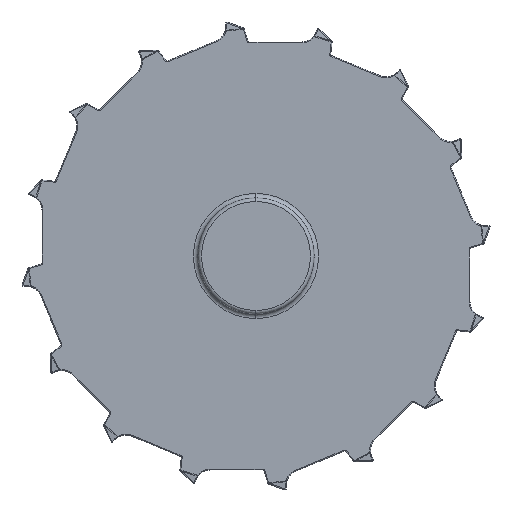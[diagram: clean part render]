
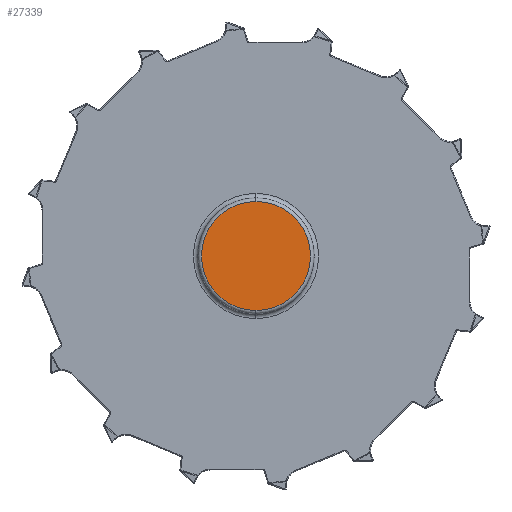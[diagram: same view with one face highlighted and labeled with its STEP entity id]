
A CAD part, left-side view. The second image highlights one B-rep face of the part: STEP entity #27339.
In plain terms, the highlighted planar face has unit normal (-1, 0, 0).
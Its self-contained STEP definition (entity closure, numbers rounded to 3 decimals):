
#7905=CARTESIAN_POINT('',(-21.15,0.,0.));
#7906=DIRECTION('',(-1.,0.,0.));
#7907=DIRECTION('',(0.,0.,1.));
#7908=AXIS2_PLACEMENT_3D('',#7905,#7906,#7907);
#7913=CARTESIAN_POINT('',(-21.15,0.,0.));
#7914=DIRECTION('',(1.,0.,0.));
#7915=DIRECTION('',(0.,0.,1.));
#7916=AXIS2_PLACEMENT_3D('',#7913,#7914,#7915);
#20578=CARTESIAN_POINT('',(-21.15,0.,30.5));
#20579=VERTEX_POINT('',#20578);
#20594=CARTESIAN_POINT('',(-21.15,0.,-30.5));
#20595=VERTEX_POINT('',#20594);
#27330=CARTESIAN_POINT('',(-21.15,0.,0.));
#27331=DIRECTION('',(1.,0.,0.));
#27332=DIRECTION('',(0.,0.,-1.));
#27333=AXIS2_PLACEMENT_3D('',#27330,#27331,#27332);
#27334=PLANE('',#27333);
#27335=ORIENTED_EDGE('',*,*,#27309,.F.);
#27336=ORIENTED_EDGE('',*,*,#27325,.T.);
#27337=EDGE_LOOP('',(#27335,#27336));
#27338=FACE_OUTER_BOUND('',#27337,.F.);
#7909=CIRCLE('',#7908,30.5);
#7917=CIRCLE('',#7916,30.5);
#27309=EDGE_CURVE('',#20579,#20595,#7909,.T.);
#27325=EDGE_CURVE('',#20579,#20595,#7917,.T.);
#27339=ADVANCED_FACE('',(#27338),#27334,.F.);
